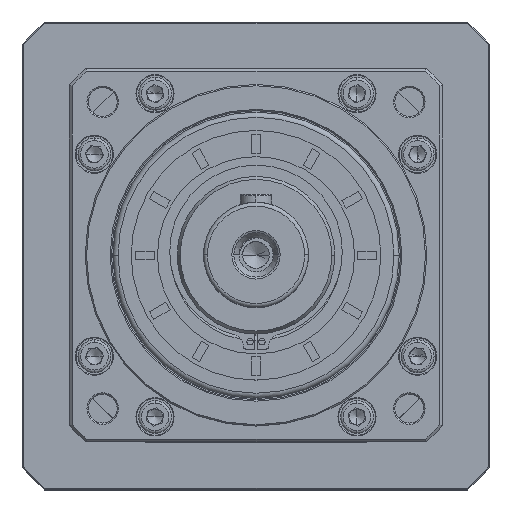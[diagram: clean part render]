
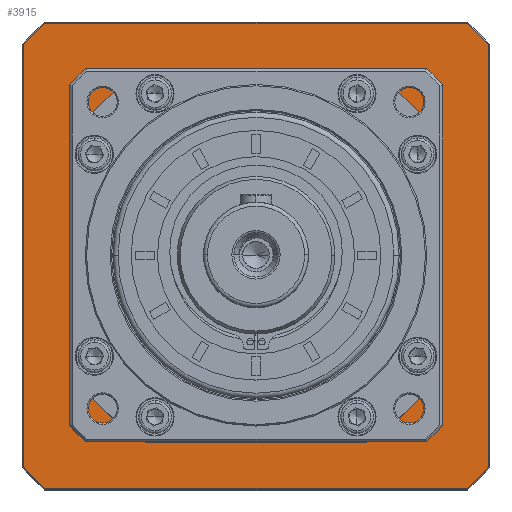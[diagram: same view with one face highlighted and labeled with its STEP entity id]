
A CAD part, top view. The second image highlights one B-rep face of the part: STEP entity #3915.
In plain terms, the highlighted planar face has unit normal (0, 0, 1).
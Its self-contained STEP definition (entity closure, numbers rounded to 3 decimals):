
#1687 = VECTOR ( 'NONE', #105110, 1000. ) ;
#1729 = CIRCLE ( 'NONE', #52078, 119.5 ) ;
#2458 = EDGE_CURVE ( 'NONE', #36115, #75272, #82425, .T. ) ;
#2570 = CARTESIAN_POINT ( 'NONE',  ( 65.395, 80.716, 29.727 ) ) ;
#2621 = VERTEX_POINT ( 'NONE', #2570 ) ;
#3915 = ADVANCED_FACE ( 'NONE', ( #41221, #35332 ), #47509, .F. ) ;
#5121 = AXIS2_PLACEMENT_3D ( 'NONE', #59452, #21129, #115774 ) ;
#5285 = EDGE_CURVE ( 'NONE', #70533, #48757, #113929, .T. ) ;
#6659 = CARTESIAN_POINT ( 'NONE',  ( 224.395, 202.893, 29.727 ) ) ;
#6735 = DIRECTION ( 'NONE',  ( -1., 0., 0. ) ) ;
#6905 = EDGE_CURVE ( 'NONE', #95005, #99651, #102415, .T. ) ;
#7016 = LINE ( 'NONE', #43813, #68878 ) ;
#8853 = ORIENTED_EDGE ( 'NONE', *, *, #98940, .F. ) ;
#9449 = ORIENTED_EDGE ( 'NONE', *, *, #115294, .F. ) ;
#10517 = CARTESIAN_POINT ( 'NONE',  ( 135.895, 211.094, 29.727 ) ) ;
#10770 = CARTESIAN_POINT ( 'NONE',  ( 47.395, 42.294, 29.727 ) ) ;
#10829 = CARTESIAN_POINT ( 'NONE',  ( 135.895, 122.594, 29.727 ) ) ;
#13208 = EDGE_LOOP ( 'NONE', ( #73625, #59715, #47467, #95155, #43473, #57902, #98689, #89399 ) ) ;
#15005 = CARTESIAN_POINT ( 'NONE',  ( 135.895, 122.594, 29.727 ) ) ;
#15087 = DIRECTION ( 'NONE',  ( 0., 0., 1. ) ) ;
#16266 = DIRECTION ( 'NONE',  ( 0., 0., 1. ) ) ;
#17519 = DIRECTION ( 'NONE',  ( 1., 0., 0. ) ) ;
#19027 = VERTEX_POINT ( 'NONE', #19242 ) ;
#19242 = CARTESIAN_POINT ( 'NONE',  ( 206.395, 80.716, 29.727 ) ) ;
#20396 = CARTESIAN_POINT ( 'NONE',  ( 47.395, 122.594, 29.727 ) ) ;
#21129 = DIRECTION ( 'NONE',  ( 0., 0., -1. ) ) ;
#22502 = VECTOR ( 'NONE', #39379, 1000. ) ;
#23526 = VECTOR ( 'NONE', #82586, 1000. ) ;
#26268 = CIRCLE ( 'NONE', #100503, 82. ) ;
#27736 = CARTESIAN_POINT ( 'NONE',  ( 224.395, 122.594, 29.727 ) ) ;
#30609 = CIRCLE ( 'NONE', #40945, 82. ) ;
#33969 = VERTEX_POINT ( 'NONE', #67414 ) ;
#34343 = DIRECTION ( 'NONE',  ( 0., 0., 1. ) ) ;
#34391 = VECTOR ( 'NONE', #81170, 1000. ) ;
#34999 = VERTEX_POINT ( 'NONE', #51075 ) ;
#35179 = LINE ( 'NONE', #39014, #86660 ) ;
#35332 = FACE_BOUND ( 'NONE', #13208, .T. ) ;
#35824 = LINE ( 'NONE', #20396, #22502 ) ;
#35980 = CARTESIAN_POINT ( 'NONE',  ( 216.194, 211.094, 29.727 ) ) ;
#36115 = VERTEX_POINT ( 'NONE', #35980 ) ;
#37294 = CARTESIAN_POINT ( 'NONE',  ( 206.895, 193.094, 29.727 ) ) ;
#37610 = DIRECTION ( 'NONE',  ( -1., 0., 0. ) ) ;
#38188 = EDGE_CURVE ( 'NONE', #77027, #113589, #26268, .T. ) ;
#39014 = CARTESIAN_POINT ( 'NONE',  ( 206.895, 52.094, 29.727 ) ) ;
#39379 = DIRECTION ( 'NONE',  ( 0., 1., 0. ) ) ;
#40945 = AXIS2_PLACEMENT_3D ( 'NONE', #15005, #34343, #52929 ) ;
#41221 = FACE_OUTER_BOUND ( 'NONE', #60983, .T. ) ;
#41307 = CARTESIAN_POINT ( 'NONE',  ( 94.017, 193.094, 29.727 ) ) ;
#42870 = AXIS2_PLACEMENT_3D ( 'NONE', #43342, #90216, #6735 ) ;
#43342 = CARTESIAN_POINT ( 'NONE',  ( 135.895, 122.594, 29.727 ) ) ;
#43473 = ORIENTED_EDGE ( 'NONE', *, *, #121790, .F. ) ;
#43813 = CARTESIAN_POINT ( 'NONE',  ( 206.395, 51.594, 29.727 ) ) ;
#45329 = VERTEX_POINT ( 'NONE', #68531 ) ;
#45750 = LINE ( 'NONE', #72716, #23526 ) ;
#47467 = ORIENTED_EDGE ( 'NONE', *, *, #106073, .F. ) ;
#47509 = PLANE ( 'NONE',  #77800 ) ;
#47983 = CARTESIAN_POINT ( 'NONE',  ( 216.194, 34.094, 29.727 ) ) ;
#48757 = VERTEX_POINT ( 'NONE', #91550 ) ;
#50872 = CARTESIAN_POINT ( 'NONE',  ( 206.395, 164.471, 29.727 ) ) ;
#51075 = CARTESIAN_POINT ( 'NONE',  ( 224.395, 42.294, 29.727 ) ) ;
#52078 = AXIS2_PLACEMENT_3D ( 'NONE', #86142, #104295, #57826 ) ;
#52852 = CIRCLE ( 'NONE', #42870, 119.5 ) ;
#52929 = DIRECTION ( 'NONE',  ( 0., -1., 0. ) ) ;
#54986 = AXIS2_PLACEMENT_3D ( 'NONE', #72708, #16266, #17519 ) ;
#55560 = EDGE_CURVE ( 'NONE', #113589, #95005, #86651, .T. ) ;
#55609 = DIRECTION ( 'NONE',  ( 0., -1., 0. ) ) ;
#56612 = VERTEX_POINT ( 'NONE', #56842 ) ;
#56842 = CARTESIAN_POINT ( 'NONE',  ( 177.773, 52.094, 29.727 ) ) ;
#56981 = DIRECTION ( 'NONE',  ( 0., 0., -1. ) ) ;
#57172 = DIRECTION ( 'NONE',  ( 1., 0., 0. ) ) ;
#57826 = DIRECTION ( 'NONE',  ( -1., 0., 0. ) ) ;
#57902 = ORIENTED_EDGE ( 'NONE', *, *, #108562, .F. ) ;
#58410 = EDGE_CURVE ( 'NONE', #33969, #45329, #68614, .T. ) ;
#59452 = CARTESIAN_POINT ( 'NONE',  ( 135.895, 122.594, 29.727 ) ) ;
#59715 = ORIENTED_EDGE ( 'NONE', *, *, #79707, .F. ) ;
#60983 = EDGE_LOOP ( 'NONE', ( #121241, #99786, #9449, #70074, #8853, #120571, #120026, #81510 ) ) ;
#61474 = CIRCLE ( 'NONE', #99634, 82. ) ;
#61545 = VERTEX_POINT ( 'NONE', #10770 ) ;
#64846 = DIRECTION ( 'NONE',  ( 0., -1., 0. ) ) ;
#66821 = DIRECTION ( 'NONE',  ( -1., 0., 0. ) ) ;
#67414 = CARTESIAN_POINT ( 'NONE',  ( 47.395, 202.893, 29.727 ) ) ;
#68531 = CARTESIAN_POINT ( 'NONE',  ( 55.595, 211.094, 29.727 ) ) ;
#68614 = CIRCLE ( 'NONE', #90186, 119.5 ) ;
#68878 = VECTOR ( 'NONE', #70552, 1000. ) ;
#70074 = ORIENTED_EDGE ( 'NONE', *, *, #2458, .F. ) ;
#70533 = VERTEX_POINT ( 'NONE', #47983 ) ;
#70552 = DIRECTION ( 'NONE',  ( 0., 1., 0. ) ) ;
#71528 = CARTESIAN_POINT ( 'NONE',  ( 135.895, 122.594, 29.727 ) ) ;
#71776 = EDGE_CURVE ( 'NONE', #101792, #56612, #35179, .T. ) ;
#72708 = CARTESIAN_POINT ( 'NONE',  ( 135.895, 122.594, 29.727 ) ) ;
#72716 = CARTESIAN_POINT ( 'NONE',  ( 65.395, 51.594, 29.727 ) ) ;
#73625 = ORIENTED_EDGE ( 'NONE', *, *, #38188, .F. ) ;
#75272 = VERTEX_POINT ( 'NONE', #6659 ) ;
#75564 = DIRECTION ( 'NONE',  ( -1., 0., 0. ) ) ;
#77027 = VERTEX_POINT ( 'NONE', #50872 ) ;
#77800 = AXIS2_PLACEMENT_3D ( 'NONE', #10829, #94384, #37610 ) ;
#79707 = EDGE_CURVE ( 'NONE', #19027, #77027, #7016, .T. ) ;
#81077 = LINE ( 'NONE', #10517, #1687 ) ;
#81170 = DIRECTION ( 'NONE',  ( -1., 0., 0. ) ) ;
#81510 = ORIENTED_EDGE ( 'NONE', *, *, #88672, .F. ) ;
#81794 = CARTESIAN_POINT ( 'NONE',  ( 94.017, 52.094, 29.727 ) ) ;
#82425 = CIRCLE ( 'NONE', #5121, 119.5 ) ;
#82586 = DIRECTION ( 'NONE',  ( 0., -1., 0. ) ) ;
#86034 = CARTESIAN_POINT ( 'NONE',  ( 65.395, 164.471, 29.727 ) ) ;
#86142 = CARTESIAN_POINT ( 'NONE',  ( 135.895, 122.594, 29.727 ) ) ;
#86651 = LINE ( 'NONE', #37294, #104302 ) ;
#86660 = VECTOR ( 'NONE', #57172, 1000. ) ;
#88672 = EDGE_CURVE ( 'NONE', #48757, #61545, #52852, .T. ) ;
#89399 = ORIENTED_EDGE ( 'NONE', *, *, #55560, .F. ) ;
#90186 = AXIS2_PLACEMENT_3D ( 'NONE', #121928, #56981, #66821 ) ;
#90216 = DIRECTION ( 'NONE',  ( 0., 0., -1. ) ) ;
#90396 = DIRECTION ( 'NONE',  ( 1., 0., 0. ) ) ;
#90417 = CARTESIAN_POINT ( 'NONE',  ( 177.773, 193.094, 29.727 ) ) ;
#91550 = CARTESIAN_POINT ( 'NONE',  ( 55.595, 34.094, 29.727 ) ) ;
#92929 = EDGE_CURVE ( 'NONE', #34999, #70533, #1729, .T. ) ;
#94384 = DIRECTION ( 'NONE',  ( 0., 0., -1. ) ) ;
#95005 = VERTEX_POINT ( 'NONE', #41307 ) ;
#95155 = ORIENTED_EDGE ( 'NONE', *, *, #71776, .F. ) ;
#95471 = LINE ( 'NONE', #27736, #118871 ) ;
#98689 = ORIENTED_EDGE ( 'NONE', *, *, #6905, .F. ) ;
#98940 = EDGE_CURVE ( 'NONE', #45329, #36115, #81077, .T. ) ;
#99634 = AXIS2_PLACEMENT_3D ( 'NONE', #71528, #15087, #90396 ) ;
#99651 = VERTEX_POINT ( 'NONE', #86034 ) ;
#99786 = ORIENTED_EDGE ( 'NONE', *, *, #92929, .F. ) ;
#100503 = AXIS2_PLACEMENT_3D ( 'NONE', #102034, #113139, #55609 ) ;
#101792 = VERTEX_POINT ( 'NONE', #81794 ) ;
#102034 = CARTESIAN_POINT ( 'NONE',  ( 135.895, 122.594, 29.727 ) ) ;
#102130 = EDGE_CURVE ( 'NONE', #61545, #33969, #35824, .T. ) ;
#102415 = CIRCLE ( 'NONE', #54986, 82. ) ;
#104295 = DIRECTION ( 'NONE',  ( 0., 0., -1. ) ) ;
#104302 = VECTOR ( 'NONE', #75564, 1000. ) ;
#105110 = DIRECTION ( 'NONE',  ( 1., 0., 0. ) ) ;
#106073 = EDGE_CURVE ( 'NONE', #56612, #19027, #61474, .T. ) ;
#108562 = EDGE_CURVE ( 'NONE', #99651, #2621, #45750, .T. ) ;
#109138 = CARTESIAN_POINT ( 'NONE',  ( 135.895, 34.094, 29.727 ) ) ;
#113139 = DIRECTION ( 'NONE',  ( 0., 0., 1. ) ) ;
#113589 = VERTEX_POINT ( 'NONE', #90417 ) ;
#113929 = LINE ( 'NONE', #109138, #34391 ) ;
#115294 = EDGE_CURVE ( 'NONE', #75272, #34999, #95471, .T. ) ;
#115774 = DIRECTION ( 'NONE',  ( -1., 0., 0. ) ) ;
#118871 = VECTOR ( 'NONE', #64846, 1000. ) ;
#120026 = ORIENTED_EDGE ( 'NONE', *, *, #102130, .F. ) ;
#120571 = ORIENTED_EDGE ( 'NONE', *, *, #58410, .F. ) ;
#121241 = ORIENTED_EDGE ( 'NONE', *, *, #5285, .F. ) ;
#121790 = EDGE_CURVE ( 'NONE', #2621, #101792, #30609, .T. ) ;
#121928 = CARTESIAN_POINT ( 'NONE',  ( 135.895, 122.594, 29.727 ) ) ;
